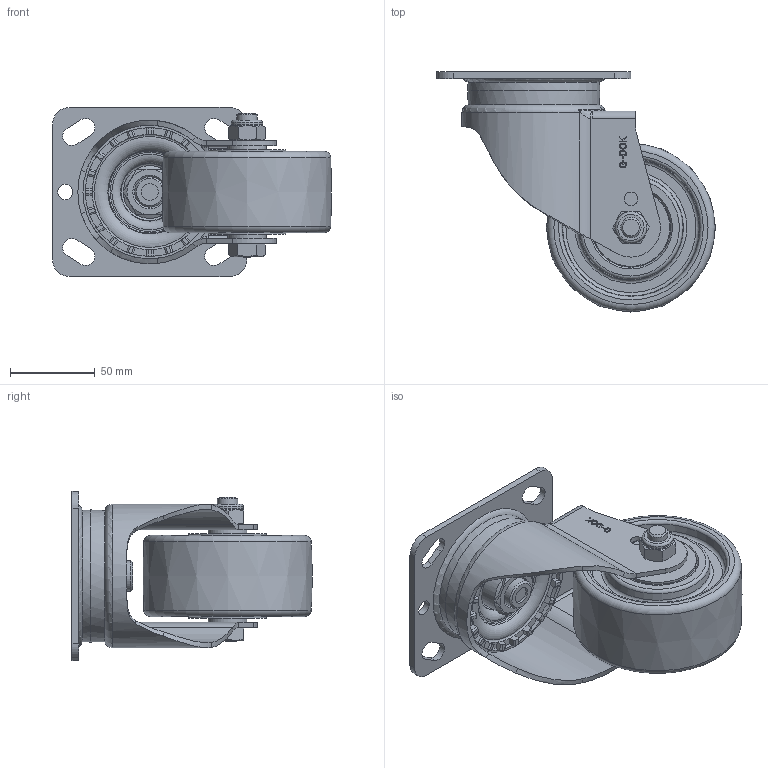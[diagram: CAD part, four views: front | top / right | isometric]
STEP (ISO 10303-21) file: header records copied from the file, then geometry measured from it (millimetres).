
FILE_DESCRIPTION(/* description */ (''),/* implementation_level */ '2;1');
FILE_NAME(/* name */ 'C:\Users\admin\Desktop\업무폴더\일자별 업무\2026\05월\05.15\변환\SPH-100-ASF-NYD.ipt.stp',/* time_stamp */ '2026-05-15T13:16:31+09:00',/* author */ ('admin'),/* organization */ ('지덕산업'),/* preprocessor_version */ 'ST-DEVELOPER v18.1',/* originating_system */ 'Autodesk Inventor 2021',/* authorisation */ '');
FILE_SCHEMA (('CONFIG_CONTROL_DESIGN'));
Length unit declared in the file: millimetre
Products named in the file (1): SPH-100-ASF-NYD
Bounding box: 165 x 141.96 x 100 mm (x, y, z)
Volume: 541951.6 mm3; surface area: 99946.1 mm2
Topology: 1 solids, 1 shells, 1187 faces, 3186 edges, 2093 vertices
Faces by surface type: plane 546, bspline 434, cylinder 142, cone 35, torus 30
Full cylindrical faces by diameter (mm): 8 x2, 9 x2, 10 x1, 12 x1, 18 x2, 18.5 x1, 31 x1, 31.177 x1, 46.001 x2, 47 x2
Entity records: 39248 total; most frequent: CARTESIAN_POINT 12382, ORIENTED_EDGE 6368, DIRECTION 4093, EDGE_CURVE 3184, VERTEX_POINT 2093, LINE 1835, VECTOR 1835, EDGE_LOOP 1299
